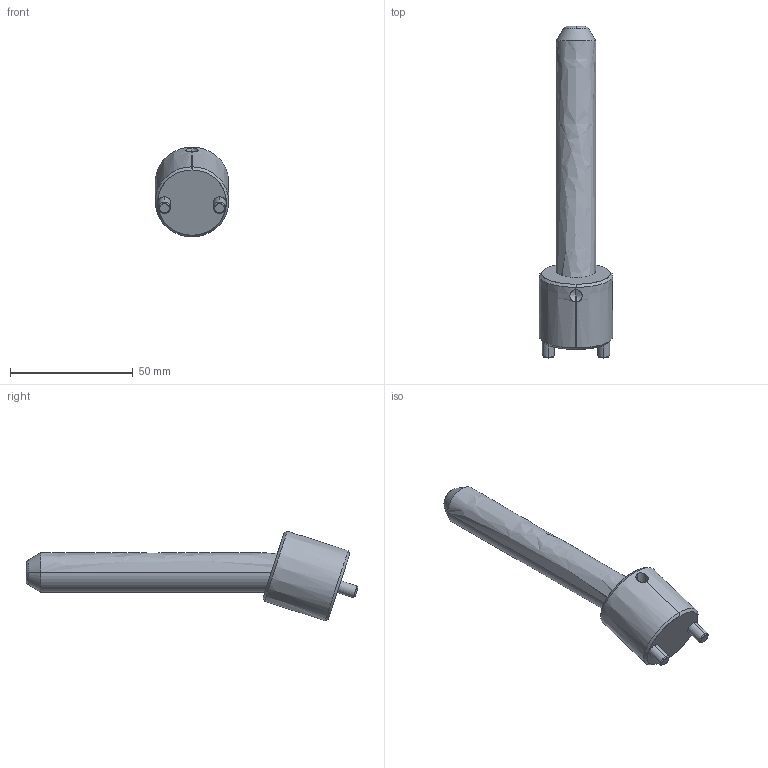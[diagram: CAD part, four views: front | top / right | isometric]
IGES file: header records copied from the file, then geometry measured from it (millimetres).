
Start section: SolidWorks IGES file using analytic representation for surfaces
Global section: file name: D:\Current\W1\Data\CI1816100\CI1816100.IGS; native system: SolidWorks 2017; preprocessor: SolidWorks 2017; author: Ravi Kalvai; date: 231207.180656; units: millimetre
Bounding box: 30 x 135.31 x 36.57 mm (x, y, z)
Surface area: 11954.4 mm2 (no closed solid volume)
Topology: 0 solids, 0 shells, 37 faces, 726 edges, 724 vertices
Faces by surface type: revolution 28, bspline 9
